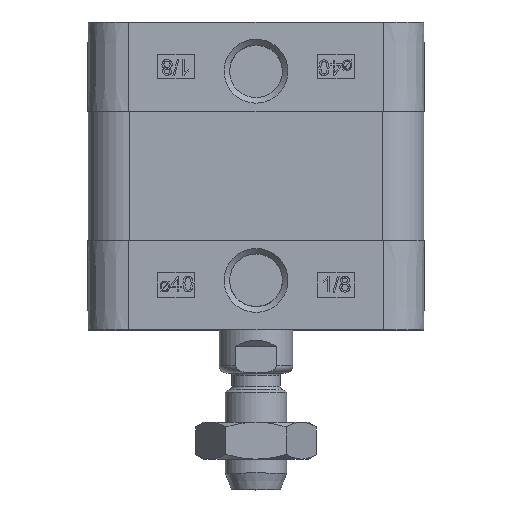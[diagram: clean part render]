
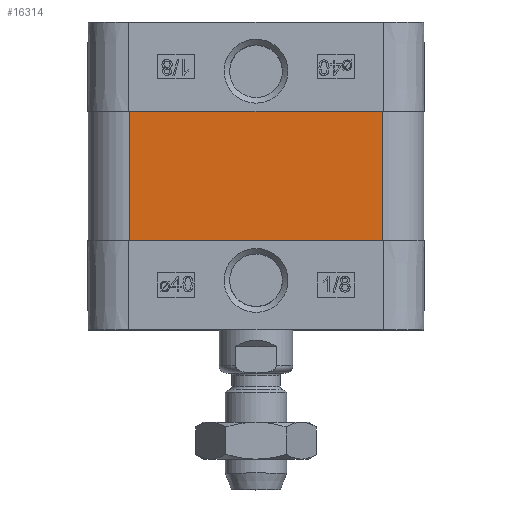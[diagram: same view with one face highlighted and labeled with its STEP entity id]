
A CAD part, top view. The second image highlights one B-rep face of the part: STEP entity #16314.
In plain terms, the highlighted planar face has unit normal (0, 0, 1) as drawn and (-1, 0, 0) by its records, which use the part's own axes.
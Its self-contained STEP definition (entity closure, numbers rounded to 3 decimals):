
#1141=LINE('',#21570,#2159);
#1185=LINE('',#21752,#2203);
#1229=LINE('',#21926,#2247);
#1230=LINE('',#21927,#2248);
#2159=VECTOR('',#18254,1000.);
#2203=VECTOR('',#18392,1000.);
#2247=VECTOR('',#18524,1000.);
#2248=VECTOR('',#18525,1000.);
#3441=ORIENTED_EDGE('',*,*,#6804,.T.);
#3442=ORIENTED_EDGE('',*,*,#6891,.F.);
#3443=ORIENTED_EDGE('',*,*,#6714,.F.);
#3444=ORIENTED_EDGE('',*,*,#6892,.T.);
#6714=EDGE_CURVE('',#8444,#8445,#1141,.T.);
#6804=EDGE_CURVE('',#8535,#8533,#1185,.T.);
#6891=EDGE_CURVE('',#8445,#8533,#1229,.T.);
#6892=EDGE_CURVE('',#8444,#8535,#1230,.T.);
#8444=VERTEX_POINT('',#21571);
#8445=VERTEX_POINT('',#21572);
#8533=VERTEX_POINT('',#21750);
#8535=VERTEX_POINT('',#21753);
#9679=EDGE_LOOP('',(#3441,#3442,#3443,#3444));
#10599=FACE_BOUND('',#9679,.T.);
#11497=PLANE('',#17175);
#16314=ADVANCED_FACE('',(#10599),#11497,.T.);
#17175=AXIS2_PLACEMENT_3D('',#21925,#18522,#18523);
#18254=DIRECTION('',(0.,1.,0.));
#18392=DIRECTION('',(0.,1.,0.));
#18522=DIRECTION('',(-1.,0.,0.));
#18523=DIRECTION('',(0.,0.,1.));
#18524=DIRECTION('',(0.,0.,1.));
#18525=DIRECTION('',(0.,0.,1.));
#21570=CARTESIAN_POINT('',(-27.25,-20.5,0.));
#21571=CARTESIAN_POINT('',(-27.25,-20.5,0.));
#21572=CARTESIAN_POINT('',(-27.25,20.5,0.));
#21750=CARTESIAN_POINT('',(-27.25,20.5,21.));
#21752=CARTESIAN_POINT('',(-27.25,-20.5,21.));
#21753=CARTESIAN_POINT('',(-27.25,-20.5,21.));
#21925=CARTESIAN_POINT('',(-27.25,-20.5,0.));
#21926=CARTESIAN_POINT('',(-27.25,20.5,0.));
#21927=CARTESIAN_POINT('',(-27.25,-20.5,0.));
